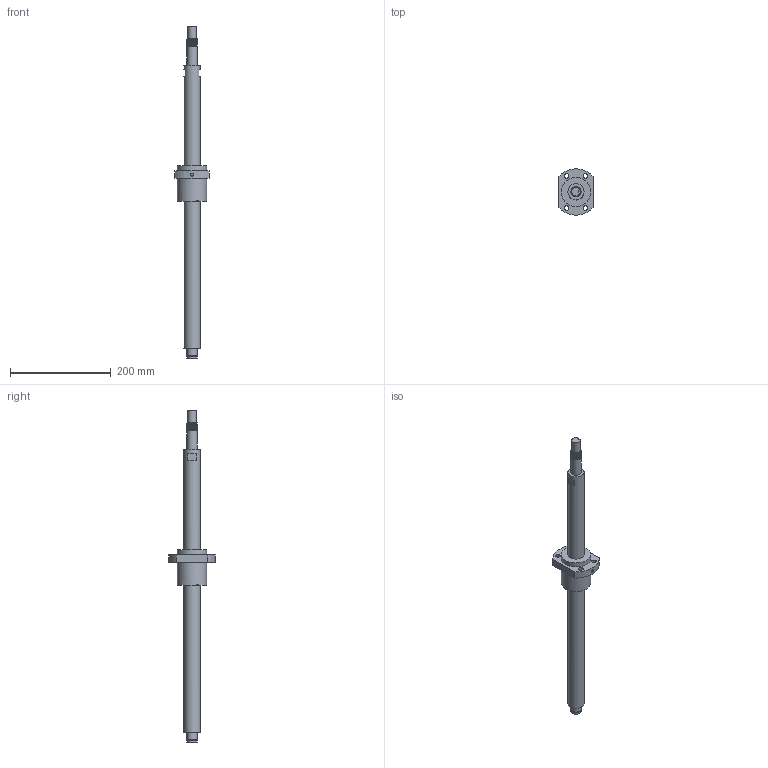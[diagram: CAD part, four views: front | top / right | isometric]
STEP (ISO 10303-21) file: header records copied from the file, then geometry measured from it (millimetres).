
FILE_DESCRIPTION(/* description */ (''),/* implementation_level */ '2;1');
FILE_NAME(/* name */ 'BSG463_asm1.stp',/* time_stamp */ '2017-01-14T09:25:39+08:00',/* author */ (''),/* organization */ (''),/* preprocessor_version */ 'ST-DEVELOPER v15',/* originating_system */ 'SIEMENS PLM Software NX 8.5',/* authorisation */ '');
FILE_SCHEMA (('AUTOMOTIVE_DESIGN { 1 0 10303 214 3 1 1 1 }'));
Length unit declared in the file: millimetre
Products named in the file (3): 01; BSG463; BSG463_asm1
Assembly tree (2 placements, depth 2):
  BSG463_asm1
    BSG463
    01
Bounding box: 68 x 92 x 660 mm (x, y, z)
Volume: 647775.4 mm3; surface area: 97637.5 mm2
Topology: 2 solids, 2 shells, 72 faces, 185 edges, 126 vertices
Faces by surface type: plane 41, cylinder 29, bspline 2
Full cylindrical faces by diameter (mm): 4.5 x4, 5 x1, 6 x1, 9 x4, 17 x1, 19 x1, 20 x8, 32 x2, 58 x2
Entity records: 3391 total; most frequent: CARTESIAN_POINT 1865, DIRECTION 310, ORIENTED_EDGE 260, EDGE_CURVE 130, AXIS2_PLACEMENT_3D 125, EDGE_LOOP 107, VERTEX_POINT 97, FACE_BOUND 71
